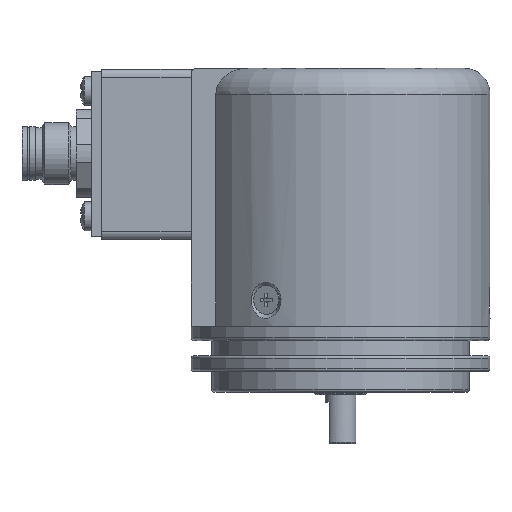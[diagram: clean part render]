
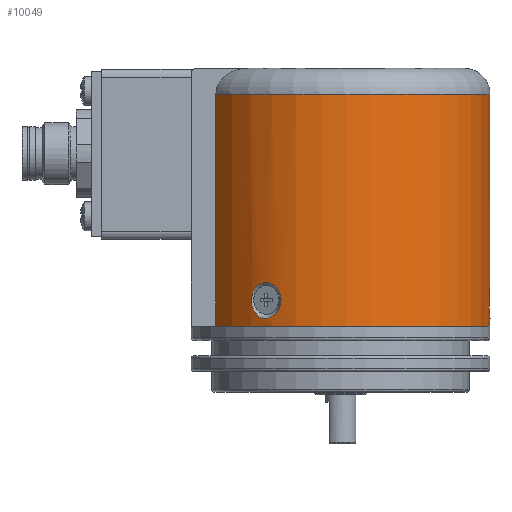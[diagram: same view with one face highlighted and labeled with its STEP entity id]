
A CAD part, front view. The second image highlights one B-rep face of the part: STEP entity #10049.
In plain terms, the highlighted cylindrical face has radius 29 mm (diameter 58 mm), a partial arc.
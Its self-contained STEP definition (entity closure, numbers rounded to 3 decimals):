
#620=B_SPLINE_CURVE_WITH_KNOTS('',3,(#24090,#24091,#24092,#24093,#24094,
#24095,#24096,#24097,#24098,#24099,#24100,#24101,#24102,#24103),
 .UNSPECIFIED.,.T.,.F.,(1,1,1,1,1,1,1,1,1,1,1,1,1,1,1,1,1,1),(-0.005,
-0.004,-0.003,0.,0.003,0.005,
0.007,0.008,0.009,0.011,
0.013,0.016,0.017,0.019,
0.021,0.024,0.027,0.028),
 .UNSPECIFIED.);
#622=B_SPLINE_CURVE_WITH_KNOTS('',3,(#24121,#24122,#24123,#24124,#24125,
#24126,#24127,#24128,#24129,#24130,#24131,#24132,#24133,#24134),
 .UNSPECIFIED.,.T.,.F.,(1,1,1,1,1,1,1,1,1,1,1,1,1,1,1,1,1,1),(-0.005,
-0.004,-0.003,0.,0.003,0.005,
0.007,0.008,0.009,0.011,
0.013,0.016,0.017,0.019,
0.021,0.024,0.027,0.028),
 .UNSPECIFIED.);
#626=B_SPLINE_CURVE_WITH_KNOTS('',3,(#24225,#24226,#24227,#24228,#24229,
#24230,#24231,#24232,#24233,#24234,#24235,#24236,#24237,#24238),
 .UNSPECIFIED.,.T.,.F.,(1,1,1,1,1,1,1,1,1,1,1,1,1,1,1,1,1,1),(-0.005,
-0.004,-0.003,0.,0.003,0.005,
0.007,0.008,0.009,0.011,
0.013,0.016,0.017,0.019,
0.021,0.024,0.027,0.028),
 .UNSPECIFIED.);
#867=LINE('',#24203,#1475);
#868=LINE('',#24222,#1476);
#1475=VECTOR('',#14275,1000.);
#1476=VECTOR('',#14280,1000.);
#2865=ORIENTED_EDGE('',*,*,#5070,.F.);
#2866=ORIENTED_EDGE('',*,*,#5073,.F.);
#2867=ORIENTED_EDGE('',*,*,#5108,.F.);
#2868=ORIENTED_EDGE('',*,*,#5106,.T.);
#2869=ORIENTED_EDGE('',*,*,#5109,.F.);
#2870=ORIENTED_EDGE('',*,*,#5102,.F.);
#2871=ORIENTED_EDGE('',*,*,#5084,.T.);
#5070=EDGE_CURVE('',#6321,#6321,#620,.T.);
#5073=EDGE_CURVE('',#6324,#6324,#622,.T.);
#5084=EDGE_CURVE('',#6333,#6331,#7238,.T.);
#5102=EDGE_CURVE('',#6333,#6349,#867,.T.);
#5106=EDGE_CURVE('',#6331,#6350,#868,.T.);
#5108=EDGE_CURVE('',#6351,#6351,#626,.T.);
#5109=EDGE_CURVE('',#6349,#6350,#7242,.T.);
#6321=VERTEX_POINT('',#24104);
#6324=VERTEX_POINT('',#24135);
#6331=VERTEX_POINT('',#24164);
#6333=VERTEX_POINT('',#24167);
#6349=VERTEX_POINT('',#24204);
#6350=VERTEX_POINT('',#24221);
#6351=VERTEX_POINT('',#24239);
#7238=CIRCLE('',#12334,29.);
#7242=CIRCLE('',#12343,29.);
#7908=EDGE_LOOP('',(#2865));
#7909=EDGE_LOOP('',(#2866));
#7910=EDGE_LOOP('',(#2867));
#7911=EDGE_LOOP('',(#2868,#2869,#2870,#2871));
#8942=FACE_BOUND('',#7908,.T.);
#8943=FACE_BOUND('',#7909,.T.);
#8944=FACE_BOUND('',#7910,.T.);
#8945=FACE_BOUND('',#7911,.T.);
#9645=CYLINDRICAL_SURFACE('',#12342,29.);
#10049=ADVANCED_FACE('',(#8942,#8943,#8944,#8945),#9645,.T.);
#12334=AXIS2_PLACEMENT_3D('',#24166,#14249,#14250);
#12342=AXIS2_PLACEMENT_3D('',#24224,#14283,#14284);
#12343=AXIS2_PLACEMENT_3D('',#24240,#14285,#14286);
#14249=DIRECTION('',(0.,0.,1.));
#14250=DIRECTION('',(0.,-1.,0.));
#14275=DIRECTION('',(0.,0.,1.));
#14280=DIRECTION('',(0.,0.,1.));
#14283=DIRECTION('',(0.,0.,1.));
#14284=DIRECTION('',(0.,-1.,0.));
#14285=DIRECTION('',(0.,0.,1.));
#14286=DIRECTION('',(0.,-1.,0.));
#24090=CARTESIAN_POINT('',(-14.086,-25.38,1.206));
#24091=CARTESIAN_POINT('',(-12.129,-26.365,2.252));
#24092=CARTESIAN_POINT('',(-11.227,-26.734,4.953));
#24093=CARTESIAN_POINT('',(-12.032,-26.4,7.165));
#24094=CARTESIAN_POINT('',(-13.364,-25.748,8.221));
#24095=CARTESIAN_POINT('',(-14.539,-25.105,8.498));
#24096=CARTESIAN_POINT('',(-15.68,-24.406,8.187));
#24097=CARTESIAN_POINT('',(-16.888,-23.589,7.093));
#24098=CARTESIAN_POINT('',(-17.541,-23.09,4.855));
#24099=CARTESIAN_POINT('',(-16.848,-23.619,2.637));
#24100=CARTESIAN_POINT('',(-15.617,-24.446,1.58));
#24101=CARTESIAN_POINT('',(-14.086,-25.38,1.206));
#24102=CARTESIAN_POINT('',(-12.129,-26.365,2.252));
#24103=CARTESIAN_POINT('',(-11.227,-26.734,4.953));
#24104=CARTESIAN_POINT('',(-12.37,-26.229,2.493));
#24121=CARTESIAN_POINT('',(-14.936,24.889,1.206));
#24122=CARTESIAN_POINT('',(-16.768,23.686,2.252));
#24123=CARTESIAN_POINT('',(-17.539,23.09,4.953));
#24124=CARTESIAN_POINT('',(-16.847,23.62,7.165));
#24125=CARTESIAN_POINT('',(-15.616,24.447,8.221));
#24126=CARTESIAN_POINT('',(-14.471,25.144,8.498));
#24127=CARTESIAN_POINT('',(-13.296,25.782,8.187));
#24128=CARTESIAN_POINT('',(-11.985,26.42,7.093));
#24129=CARTESIAN_POINT('',(-11.226,26.736,4.855));
#24130=CARTESIAN_POINT('',(-12.03,26.401,2.637));
#24131=CARTESIAN_POINT('',(-13.362,25.748,1.58));
#24132=CARTESIAN_POINT('',(-14.936,24.889,1.206));
#24133=CARTESIAN_POINT('',(-16.768,23.686,2.252));
#24134=CARTESIAN_POINT('',(-17.539,23.09,4.953));
#24135=CARTESIAN_POINT('',(-16.53,23.828,2.493));
#24164=CARTESIAN_POINT('',(-24.187,16.,-0.1));
#24166=CARTESIAN_POINT('',(0.,0.,-0.1));
#24167=CARTESIAN_POINT('',(-24.187,-16.,-0.1));
#24203=CARTESIAN_POINT('',(-24.187,-16.,-0.21));
#24204=CARTESIAN_POINT('',(-24.187,-16.,44.9));
#24221=CARTESIAN_POINT('',(-24.187,16.,44.9));
#24222=CARTESIAN_POINT('',(-24.187,16.,-0.21));
#24224=CARTESIAN_POINT('',(0.,0.,-0.21));
#24225=CARTESIAN_POINT('',(29.023,0.491,1.206));
#24226=CARTESIAN_POINT('',(28.897,2.678,2.252));
#24227=CARTESIAN_POINT('',(28.766,3.644,4.953));
#24228=CARTESIAN_POINT('',(28.879,2.78,7.165));
#24229=CARTESIAN_POINT('',(28.98,1.3,8.221));
#24230=CARTESIAN_POINT('',(29.011,-0.039,8.498));
#24231=CARTESIAN_POINT('',(28.976,-1.376,8.187));
#24232=CARTESIAN_POINT('',(28.873,-2.831,7.093));
#24233=CARTESIAN_POINT('',(28.767,-3.646,4.855));
#24234=CARTESIAN_POINT('',(28.879,-2.782,2.637));
#24235=CARTESIAN_POINT('',(28.98,-1.302,1.58));
#24236=CARTESIAN_POINT('',(29.023,0.491,1.206));
#24237=CARTESIAN_POINT('',(28.897,2.678,2.252));
#24238=CARTESIAN_POINT('',(28.766,3.644,4.953));
#24239=CARTESIAN_POINT('',(28.9,2.402,2.493));
#24240=CARTESIAN_POINT('',(0.,0.,44.9));
